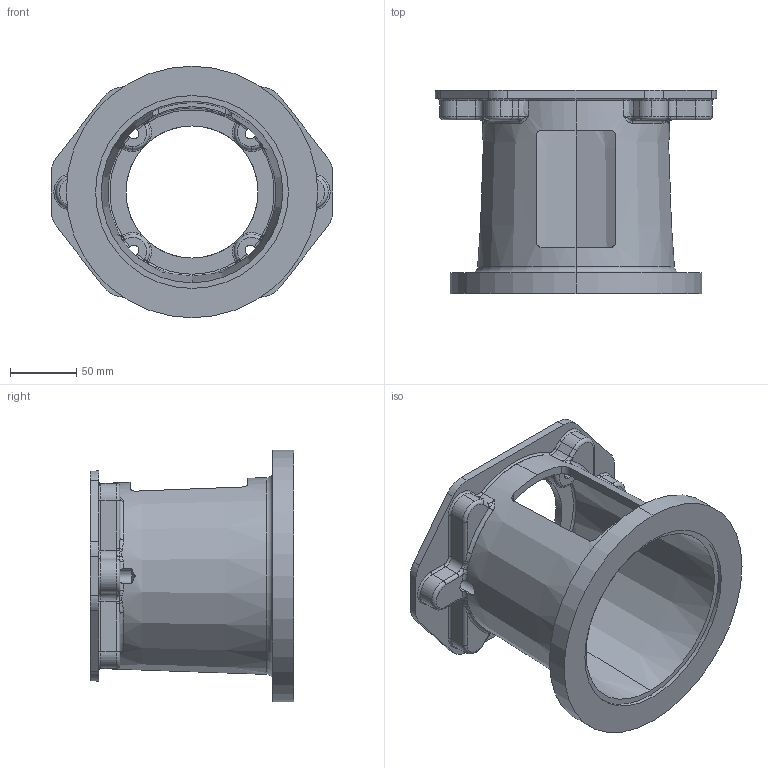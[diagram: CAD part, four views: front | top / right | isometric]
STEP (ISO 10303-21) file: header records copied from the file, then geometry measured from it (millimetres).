
FILE_DESCRIPTION (( 'STEP AP203' ), '1' );
FILE_NAME ('E57560100MB.STEP', '2014-11-03T17:03:26', ( '' ), ( '' ), 'SwSTEP 2.0', 'SolidWorks 2014', '' );
FILE_SCHEMA (( 'CONFIG_CONTROL_DESIGN' ));
Length unit declared in the file: inch
Products named in the file (1): E57560100MB
Bounding box: 213.3 x 153.92 x 190.5 mm (x, y, z)
Volume: 750123.4 mm3; surface area: 195540.4 mm2
Topology: 1 solids, 1 shells, 286 faces, 748 edges, 435 vertices
Faces by surface type: torus 79, cylinder 66, bspline 64, plane 43, cone 18, sphere 16
Entity records: 11327 total; most frequent: CARTESIAN_POINT 4690, ORIENTED_EDGE 1448, DIRECTION 1378, EDGE_CURVE 724, AXIS2_PLACEMENT_3D 619, VERTEX_POINT 435, CIRCLE 396, EDGE_LOOP 297
